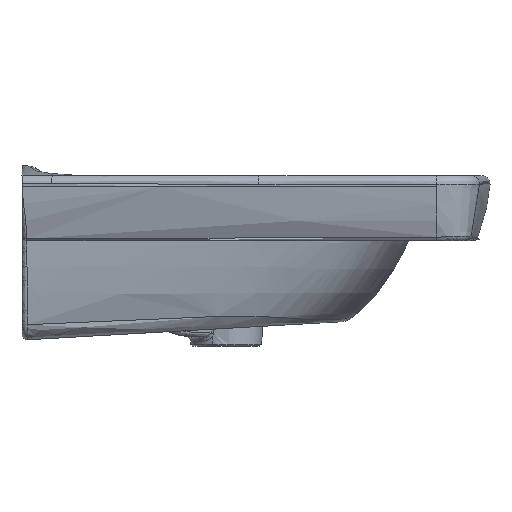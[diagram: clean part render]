
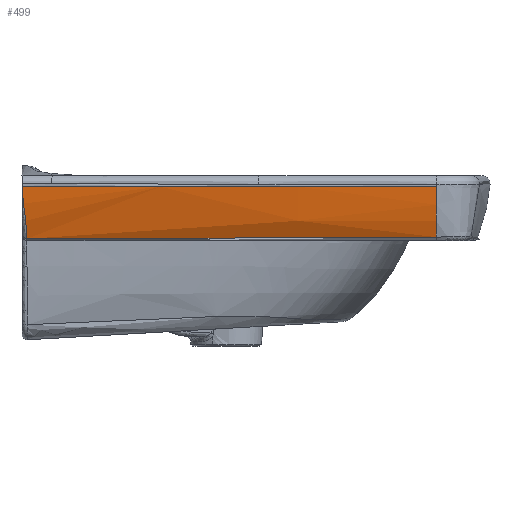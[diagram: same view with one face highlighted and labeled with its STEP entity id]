
A CAD part, left-side view. The second image highlights one B-rep face of the part: STEP entity #499.
In plain terms, the highlighted face is a revolution surface.
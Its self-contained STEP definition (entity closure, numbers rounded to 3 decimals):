
#49=SURFACE_OF_REVOLUTION('',#1791,#53);
#53=AXIS1_PLACEMENT('',#26661,#5807);
#315=CIRCLE('',#5536,6492.744);
#499=ADVANCED_FACE('',(#918),#49,.F.);
#918=FACE_OUTER_BOUND('',#1258,.T.);
#1258=EDGE_LOOP('',(#2612,#2613,#2614,#2615));
#1784=B_SPLINE_CURVE_WITH_KNOTS('',3,(#26253,#26254,#26255,#26256,#26257,
#26258,#26259,#26260,#26261,#26262,#26263,#26264,#26265,#26266,#26267,#26268,
#26269,#26270),.UNSPECIFIED.,.F.,.F.,(4,2,2,2,2,2,2,2,4),(0.,0.125,
0.188,0.203,0.219,0.25,0.375,
0.5,1.),.UNSPECIFIED.);
#1789=B_SPLINE_CURVE_WITH_KNOTS('',3,(#26586,#26587,#26588,#26589,#26590,
#26591,#26592,#26593,#26594,#26595,#26596,#26597,#26598,#26599,#26600,#26601,
#26602,#26603,#26604,#26605,#26606,#26607,#26608,#26609,#26610,#26611,#26612,
#26613,#26614,#26615,#26616,#26617,#26618,#26619,#26620,#26621,#26622,#26623,
#26624,#26625,#26626,#26627,#26628,#26629,#26630,#26631,#26632,#26633,#26634,
#26635,#26636,#26637),.UNSPECIFIED.,.F.,.F.,(4,2,2,1,2,2,2,2,1,1,2,2,2,
2,2,1,1,2,2,2,2,1,1,2,2,2,1,2,2,4),(0.,0.25,0.258,
0.266,0.281,0.312,0.375,
0.377,0.379,0.383,0.391,
0.406,0.437,0.5,0.504,
0.508,0.516,0.531,0.562,
0.625,0.633,0.641,0.656,
0.687,0.75,0.766,0.781,
0.812,0.875,1.),.UNSPECIFIED.);
#1790=B_SPLINE_CURVE_WITH_KNOTS('',3,(#26639,#26640,#26641,#26642),
 .UNSPECIFIED.,.F.,.F.,(4,4),(0.,1.),.UNSPECIFIED.);
#1791=B_SPLINE_CURVE_WITH_KNOTS('',3,(#26643,#26644,#26645,#26646,#26647,
#26648,#26649,#26650,#26651,#26652,#26653,#26654,#26655,#26656,#26657,#26658,
#26659,#26660),.UNSPECIFIED.,.F.,.F.,(4,1,1,3,3,3,3,4),(0.,0.309,
0.686,0.801,0.82,0.846,
0.952,1.),.UNSPECIFIED.);
#2612=ORIENTED_EDGE('',*,*,#4787,.T.);
#2613=ORIENTED_EDGE('',*,*,#4792,.F.);
#2614=ORIENTED_EDGE('',*,*,#4793,.T.);
#2615=ORIENTED_EDGE('',*,*,#4794,.T.);
#4204=VERTEX_POINT('',#26252);
#4205=VERTEX_POINT('',#26271);
#4209=VERTEX_POINT('',#26585);
#4210=VERTEX_POINT('',#26638);
#4787=EDGE_CURVE('',#4205,#4204,#1784,.T.);
#4792=EDGE_CURVE('',#4209,#4204,#315,.T.);
#4793=EDGE_CURVE('',#4209,#4210,#1789,.T.);
#4794=EDGE_CURVE('',#4210,#4205,#1790,.T.);
#5536=AXIS2_PLACEMENT_3D('',#26584,#5805,#5806);
#5805=DIRECTION('',(0.,0.,1.));
#5806=DIRECTION('',(1.,0.,0.));
#5807=DIRECTION('',(0.,0.,1.));
#26252=CARTESIAN_POINT('',(-297.375,-416.181,-10.958));
#26253=CARTESIAN_POINT('',(-288.434,-415.919,-61.631));
#26254=CARTESIAN_POINT('',(-289.244,-415.942,-59.26));
#26255=CARTESIAN_POINT('',(-289.937,-415.962,-57.131));
#26256=CARTESIAN_POINT('',(-290.798,-415.986,-54.294));
#26257=CARTESIAN_POINT('',(-291.055,-415.993,-53.408));
#26258=CARTESIAN_POINT('',(-291.343,-416.002,-52.378));
#26259=CARTESIAN_POINT('',(-291.399,-416.003,-52.176));
#26260=CARTESIAN_POINT('',(-291.509,-416.006,-51.779));
#26261=CARTESIAN_POINT('',(-291.579,-416.008,-51.521));
#26262=CARTESIAN_POINT('',(-291.781,-416.014,-50.767));
#26263=CARTESIAN_POINT('',(-291.914,-416.018,-50.26));
#26264=CARTESIAN_POINT('',(-292.567,-416.037,-47.71));
#26265=CARTESIAN_POINT('',(-293.052,-416.051,-45.616));
#26266=CARTESIAN_POINT('',(-293.947,-416.077,-41.319));
#26267=CARTESIAN_POINT('',(-294.372,-416.089,-39.008));
#26268=CARTESIAN_POINT('',(-295.972,-416.136,-29.4));
#26269=CARTESIAN_POINT('',(-296.864,-416.164,-20.707));
#26270=CARTESIAN_POINT('',(-297.375,-416.181,-10.958));
#26271=CARTESIAN_POINT('',(-288.433,-415.919,-61.631));
#26584=CARTESIAN_POINT('',(6192.922,-237.901,-10.958));
#26585=CARTESIAN_POINT('',(-295.464,-0.044,-10.958));
#26586=CARTESIAN_POINT('',(-295.464,-0.044,-10.958));
#26587=CARTESIAN_POINT('',(-295.271,-0.15,-14.717));
#26588=CARTESIAN_POINT('',(-295.001,-0.467,-19.021));
#26589=CARTESIAN_POINT('',(-294.533,-1.011,-23.971));
#26590=CARTESIAN_POINT('',(-294.525,-1.02,-24.052));
#26591=CARTESIAN_POINT('',(-294.503,-1.046,-24.286));
#26592=CARTESIAN_POINT('',(-294.469,-1.086,-24.642));
#26593=CARTESIAN_POINT('',(-294.432,-1.127,-25.007));
#26594=CARTESIAN_POINT('',(-294.357,-1.214,-25.753));
#26595=CARTESIAN_POINT('',(-294.304,-1.275,-26.269));
#26596=CARTESIAN_POINT('',(-294.131,-1.468,-27.873));
#26597=CARTESIAN_POINT('',(-294.001,-1.611,-29.016));
#26598=CARTESIAN_POINT('',(-293.845,-1.773,-30.27));
#26599=CARTESIAN_POINT('',(-293.85,-1.768,-30.236));
#26600=CARTESIAN_POINT('',(-293.849,-1.769,-30.242));
#26601=CARTESIAN_POINT('',(-293.848,-1.77,-30.251));
#26602=CARTESIAN_POINT('',(-293.844,-1.774,-30.284));
#26603=CARTESIAN_POINT('',(-293.838,-1.78,-30.33));
#26604=CARTESIAN_POINT('',(-293.824,-1.796,-30.445));
#26605=CARTESIAN_POINT('',(-293.81,-1.81,-30.554));
#26606=CARTESIAN_POINT('',(-293.757,-1.865,-30.976));
#26607=CARTESIAN_POINT('',(-293.705,-1.919,-31.384));
#26608=CARTESIAN_POINT('',(-293.492,-2.131,-32.986));
#26609=CARTESIAN_POINT('',(-293.277,-2.339,-34.559));
#26610=CARTESIAN_POINT('',(-292.929,-2.631,-36.746));
#26611=CARTESIAN_POINT('',(-292.924,-2.635,-36.777));
#26612=CARTESIAN_POINT('',(-292.899,-2.656,-36.935));
#26613=CARTESIAN_POINT('',(-292.861,-2.688,-37.171));
#26614=CARTESIAN_POINT('',(-292.773,-2.76,-37.711));
#26615=CARTESIAN_POINT('',(-292.698,-2.819,-38.159));
#26616=CARTESIAN_POINT('',(-292.549,-2.935,-39.034));
#26617=CARTESIAN_POINT('',(-292.451,-3.008,-39.59));
#26618=CARTESIAN_POINT('',(-292.164,-3.214,-41.176));
#26619=CARTESIAN_POINT('',(-291.981,-3.335,-42.124));
#26620=CARTESIAN_POINT('',(-291.791,-3.452,-43.071));
#26621=CARTESIAN_POINT('',(-291.754,-3.474,-43.253));
#26622=CARTESIAN_POINT('',(-291.697,-3.509,-43.538));
#26623=CARTESIAN_POINT('',(-291.609,-3.561,-43.962));
#26624=CARTESIAN_POINT('',(-291.405,-3.677,-44.936));
#26625=CARTESIAN_POINT('',(-291.229,-3.77,-45.742));
#26626=CARTESIAN_POINT('',(-290.875,-3.947,-47.315));
#26627=CARTESIAN_POINT('',(-290.638,-4.053,-48.312));
#26628=CARTESIAN_POINT('',(-290.344,-4.17,-49.497));
#26629=CARTESIAN_POINT('',(-290.259,-4.202,-49.834));
#26630=CARTESIAN_POINT('',(-290.113,-4.256,-50.403));
#26631=CARTESIAN_POINT('',(-289.893,-4.333,-51.249));
#26632=CARTESIAN_POINT('',(-289.669,-4.402,-52.078));
#26633=CARTESIAN_POINT('',(-289.215,-4.53,-53.712));
#26634=CARTESIAN_POINT('',(-288.905,-4.602,-54.77));
#26635=CARTESIAN_POINT('',(-287.961,-4.772,-57.853));
#26636=CARTESIAN_POINT('',(-287.318,-4.83,-59.789));
#26637=CARTESIAN_POINT('',(-286.692,-4.83,-61.618));
#26638=CARTESIAN_POINT('',(-286.127,-4.819,-63.355));
#26639=CARTESIAN_POINT('',(-286.687,-4.831,-61.632));
#26640=CARTESIAN_POINT('',(-291.614,-141.806,-61.632));
#26641=CARTESIAN_POINT('',(-292.196,-278.907,-61.632));
#26642=CARTESIAN_POINT('',(-288.433,-415.919,-61.632));
#26643=CARTESIAN_POINT('',(-296.468,-10.,26.798));
#26644=CARTESIAN_POINT('',(-296.468,-10.,14.09));
#26645=CARTESIAN_POINT('',(-296.468,-10.,-14.089));
#26646=CARTESIAN_POINT('',(-292.753,-10.,-44.9));
#26647=CARTESIAN_POINT('',(-286.671,-10.,-62.24));
#26648=CARTESIAN_POINT('',(-285.242,-10.,-66.316));
#26649=CARTESIAN_POINT('',(-285.008,-10.,-66.981));
#26650=CARTESIAN_POINT('',(-284.775,-10.,-67.646));
#26651=CARTESIAN_POINT('',(-284.542,-10.,-68.312));
#26652=CARTESIAN_POINT('',(-284.226,-10.,-69.212));
#26653=CARTESIAN_POINT('',(-283.91,-10.,-70.112));
#26654=CARTESIAN_POINT('',(-283.595,-10.,-71.013));
#26655=CARTESIAN_POINT('',(-282.277,-10.,-74.771));
#26656=CARTESIAN_POINT('',(-280.959,-10.,-78.529));
#26657=CARTESIAN_POINT('',(-279.641,-10.,-82.287));
#26658=CARTESIAN_POINT('',(-279.052,-10.,-83.965));
#26659=CARTESIAN_POINT('',(-278.464,-10.,-85.643));
#26660=CARTESIAN_POINT('',(-277.875,-10.,-87.321));
#26661=CARTESIAN_POINT('',(6192.922,-237.901,19.999));
